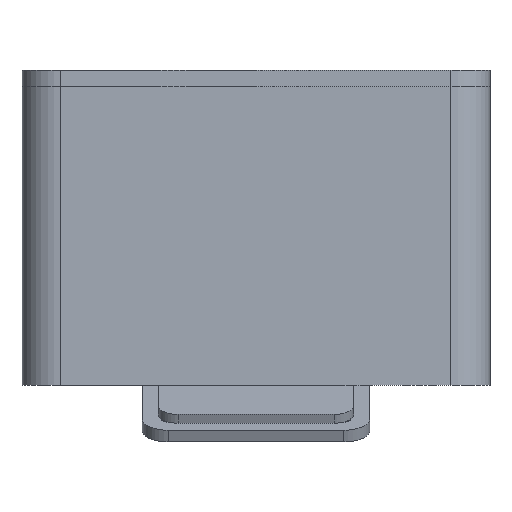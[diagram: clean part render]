
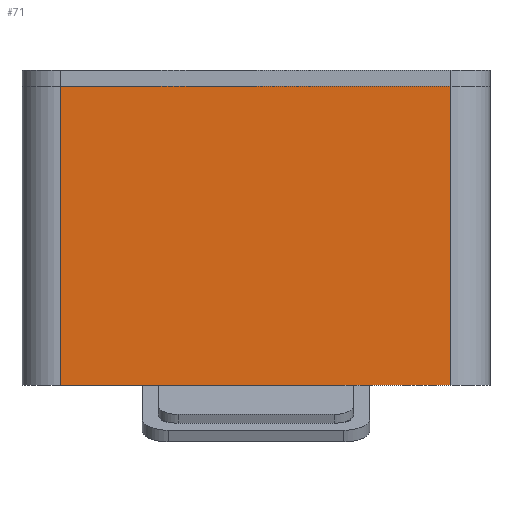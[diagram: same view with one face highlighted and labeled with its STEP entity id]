
A CAD part, left-side view. The second image highlights one B-rep face of the part: STEP entity #71.
In plain terms, the highlighted planar face has unit normal (-1, 0, 0).
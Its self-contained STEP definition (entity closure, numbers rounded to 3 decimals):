
#71 = ADVANCED_FACE('',(#72),#86,.F.);
#72 = FACE_BOUND('',#73,.F.);
#73 = EDGE_LOOP('',(#74,#109,#137,#165));
#74 = ORIENTED_EDGE('',*,*,#75,.F.);
#75 = EDGE_CURVE('',#76,#78,#80,.T.);
#76 = VERTEX_POINT('',#77);
#77 = CARTESIAN_POINT('',(-75.,-60.,46.));
#78 = VERTEX_POINT('',#79);
#79 = CARTESIAN_POINT('',(-75.,60.,46.));
#80 = SURFACE_CURVE('',#81,(#85,#97),.PCURVE_S1.);
#81 = LINE('',#82,#83);
#82 = CARTESIAN_POINT('',(-75.,-72.,46.));
#83 = VECTOR('',#84,1.);
#84 = DIRECTION('',(0.,1.,0.));
#85 = PCURVE('',#86,#91);
#86 = PLANE('',#87);
#87 = AXIS2_PLACEMENT_3D('',#88,#89,#90);
#88 = CARTESIAN_POINT('',(-75.,-72.,-46.));
#89 = DIRECTION('',(1.,0.,0.));
#90 = DIRECTION('',(0.,0.,1.));
#91 = DEFINITIONAL_REPRESENTATION('',(#92),#96);
#92 = LINE('',#93,#94);
#93 = CARTESIAN_POINT('',(92.,0.));
#94 = VECTOR('',#95,1.);
#95 = DIRECTION('',(0.,-1.));
#96 = ( GEOMETRIC_REPRESENTATION_CONTEXT(2) 
PARAMETRIC_REPRESENTATION_CONTEXT() REPRESENTATION_CONTEXT('2D SPACE',''
  ) );
#97 = PCURVE('',#98,#103);
#98 = PLANE('',#99);
#99 = AXIS2_PLACEMENT_3D('',#100,#101,#102);
#100 = CARTESIAN_POINT('',(-75.,-72.,46.));
#101 = DIRECTION('',(0.,0.,1.));
#102 = DIRECTION('',(1.,0.,0.));
#103 = DEFINITIONAL_REPRESENTATION('',(#104),#108);
#104 = LINE('',#105,#106);
#105 = CARTESIAN_POINT('',(0.,0.));
#106 = VECTOR('',#107,1.);
#107 = DIRECTION('',(0.,1.));
#108 = ( GEOMETRIC_REPRESENTATION_CONTEXT(2) 
PARAMETRIC_REPRESENTATION_CONTEXT() REPRESENTATION_CONTEXT('2D SPACE',''
  ) );
#109 = ORIENTED_EDGE('',*,*,#110,.F.);
#110 = EDGE_CURVE('',#111,#76,#113,.T.);
#111 = VERTEX_POINT('',#112);
#112 = CARTESIAN_POINT('',(-75.,-60.,-46.));
#113 = SURFACE_CURVE('',#114,(#118,#125),.PCURVE_S1.);
#114 = LINE('',#115,#116);
#115 = CARTESIAN_POINT('',(-75.,-60.,-46.));
#116 = VECTOR('',#117,1.);
#117 = DIRECTION('',(0.,0.,1.));
#118 = PCURVE('',#86,#119);
#119 = DEFINITIONAL_REPRESENTATION('',(#120),#124);
#120 = LINE('',#121,#122);
#121 = CARTESIAN_POINT('',(0.,-12.));
#122 = VECTOR('',#123,1.);
#123 = DIRECTION('',(1.,0.));
#124 = ( GEOMETRIC_REPRESENTATION_CONTEXT(2) 
PARAMETRIC_REPRESENTATION_CONTEXT() REPRESENTATION_CONTEXT('2D SPACE',''
  ) );
#125 = PCURVE('',#126,#131);
#126 = CYLINDRICAL_SURFACE('',#127,12.);
#127 = AXIS2_PLACEMENT_3D('',#128,#129,#130);
#128 = CARTESIAN_POINT('',(-63.,-60.,-46.));
#129 = DIRECTION('',(0.,0.,1.));
#130 = DIRECTION('',(-1.,-0.,0.));
#131 = DEFINITIONAL_REPRESENTATION('',(#132),#136);
#132 = LINE('',#133,#134);
#133 = CARTESIAN_POINT('',(0.,0.));
#134 = VECTOR('',#135,1.);
#135 = DIRECTION('',(0.,1.));
#136 = ( GEOMETRIC_REPRESENTATION_CONTEXT(2) 
PARAMETRIC_REPRESENTATION_CONTEXT() REPRESENTATION_CONTEXT('2D SPACE',''
  ) );
#137 = ORIENTED_EDGE('',*,*,#138,.T.);
#138 = EDGE_CURVE('',#111,#139,#141,.T.);
#139 = VERTEX_POINT('',#140);
#140 = CARTESIAN_POINT('',(-75.,60.,-46.));
#141 = SURFACE_CURVE('',#142,(#146,#153),.PCURVE_S1.);
#142 = LINE('',#143,#144);
#143 = CARTESIAN_POINT('',(-75.,-72.,-46.));
#144 = VECTOR('',#145,1.);
#145 = DIRECTION('',(0.,1.,0.));
#146 = PCURVE('',#86,#147);
#147 = DEFINITIONAL_REPRESENTATION('',(#148),#152);
#148 = LINE('',#149,#150);
#149 = CARTESIAN_POINT('',(0.,0.));
#150 = VECTOR('',#151,1.);
#151 = DIRECTION('',(0.,-1.));
#152 = ( GEOMETRIC_REPRESENTATION_CONTEXT(2) 
PARAMETRIC_REPRESENTATION_CONTEXT() REPRESENTATION_CONTEXT('2D SPACE',''
  ) );
#153 = PCURVE('',#154,#159);
#154 = PLANE('',#155);
#155 = AXIS2_PLACEMENT_3D('',#156,#157,#158);
#156 = CARTESIAN_POINT('',(-75.,-72.,-46.));
#157 = DIRECTION('',(0.,0.,1.));
#158 = DIRECTION('',(1.,0.,0.));
#159 = DEFINITIONAL_REPRESENTATION('',(#160),#164);
#160 = LINE('',#161,#162);
#161 = CARTESIAN_POINT('',(0.,0.));
#162 = VECTOR('',#163,1.);
#163 = DIRECTION('',(0.,1.));
#164 = ( GEOMETRIC_REPRESENTATION_CONTEXT(2) 
PARAMETRIC_REPRESENTATION_CONTEXT() REPRESENTATION_CONTEXT('2D SPACE',''
  ) );
#165 = ORIENTED_EDGE('',*,*,#166,.T.);
#166 = EDGE_CURVE('',#139,#78,#167,.T.);
#167 = SURFACE_CURVE('',#168,(#172,#179),.PCURVE_S1.);
#168 = LINE('',#169,#170);
#169 = CARTESIAN_POINT('',(-75.,60.,-46.));
#170 = VECTOR('',#171,1.);
#171 = DIRECTION('',(0.,0.,1.));
#172 = PCURVE('',#86,#173);
#173 = DEFINITIONAL_REPRESENTATION('',(#174),#178);
#174 = LINE('',#175,#176);
#175 = CARTESIAN_POINT('',(0.,-132.));
#176 = VECTOR('',#177,1.);
#177 = DIRECTION('',(1.,0.));
#178 = ( GEOMETRIC_REPRESENTATION_CONTEXT(2) 
PARAMETRIC_REPRESENTATION_CONTEXT() REPRESENTATION_CONTEXT('2D SPACE',''
  ) );
#179 = PCURVE('',#180,#185);
#180 = CYLINDRICAL_SURFACE('',#181,12.);
#181 = AXIS2_PLACEMENT_3D('',#182,#183,#184);
#182 = CARTESIAN_POINT('',(-63.,60.,-46.));
#183 = DIRECTION('',(0.,0.,1.));
#184 = DIRECTION('',(-1.,-0.,0.));
#185 = DEFINITIONAL_REPRESENTATION('',(#186),#190);
#186 = LINE('',#187,#188);
#187 = CARTESIAN_POINT('',(-0.,0.));
#188 = VECTOR('',#189,1.);
#189 = DIRECTION('',(-0.,1.));
#190 = ( GEOMETRIC_REPRESENTATION_CONTEXT(2) 
PARAMETRIC_REPRESENTATION_CONTEXT() REPRESENTATION_CONTEXT('2D SPACE',''
  ) );
